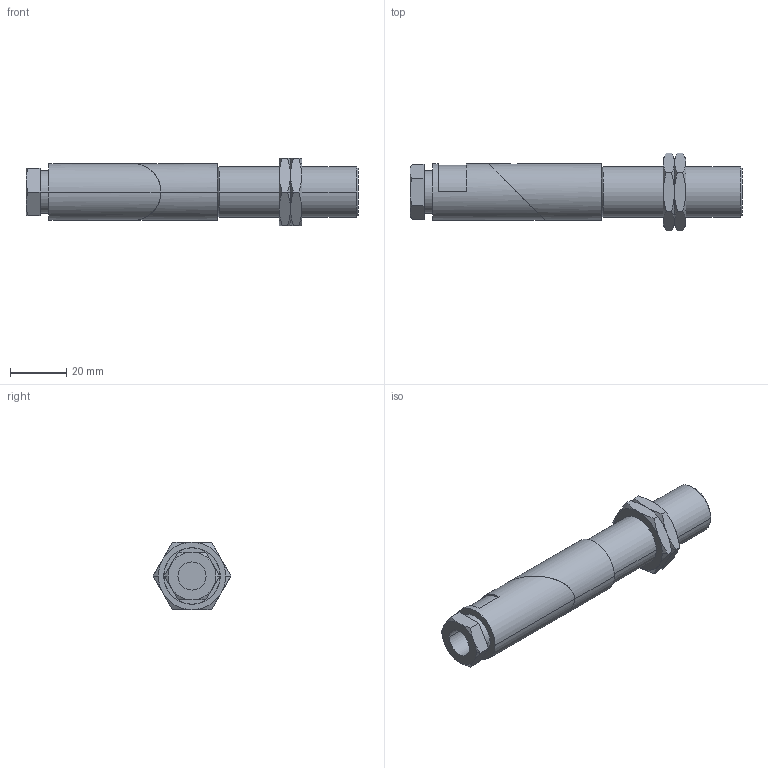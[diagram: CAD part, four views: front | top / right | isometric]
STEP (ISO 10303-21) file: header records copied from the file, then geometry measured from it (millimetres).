
FILE_DESCRIPTION( ( '' ), '1' );
FILE_NAME( '//partserver001.servicenet/client_exchange/iodir/jobs/output/wkb10596692_no0/STEP/ig57190_2_03.stp', '2008-05-15T08:23:57', ( '' ), ( '' ), ' ', ' ', ' ' );
FILE_SCHEMA( ( 'CONFIG_CONTROL_DESIGN' ) );
Length unit declared in the file: millimetre
Products named in the file (2): 1; 2
Bounding box: 118 x 27.71 x 24 mm (x, y, z)
Volume: 33654.5 mm3; surface area: 10004.3 mm2
Topology: 2 solids, 2 shells, 92 faces, 193 edges, 111 vertices
Faces by surface type: cone 44, plane 33, cylinder 15
Entity records: 2474 total; most frequent: CARTESIAN_POINT 569, DIRECTION 386, ORIENTED_EDGE 386, EDGE_CURVE 193, AXIS2_PLACEMENT_3D 162, VERTEX_POINT 111, EDGE_LOOP 98, ADVANCED_FACE 92
